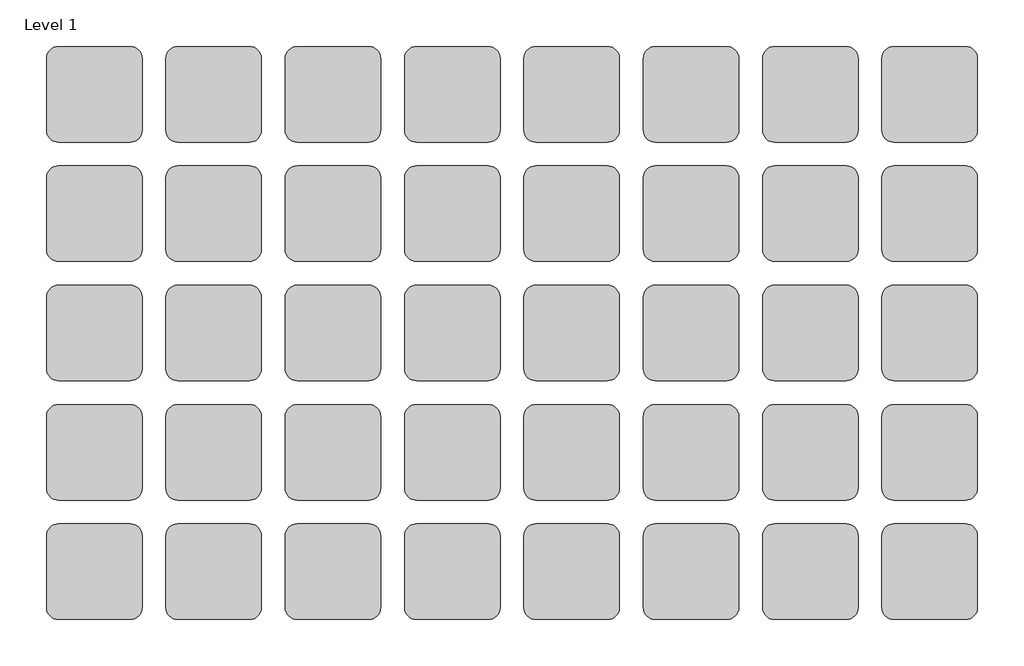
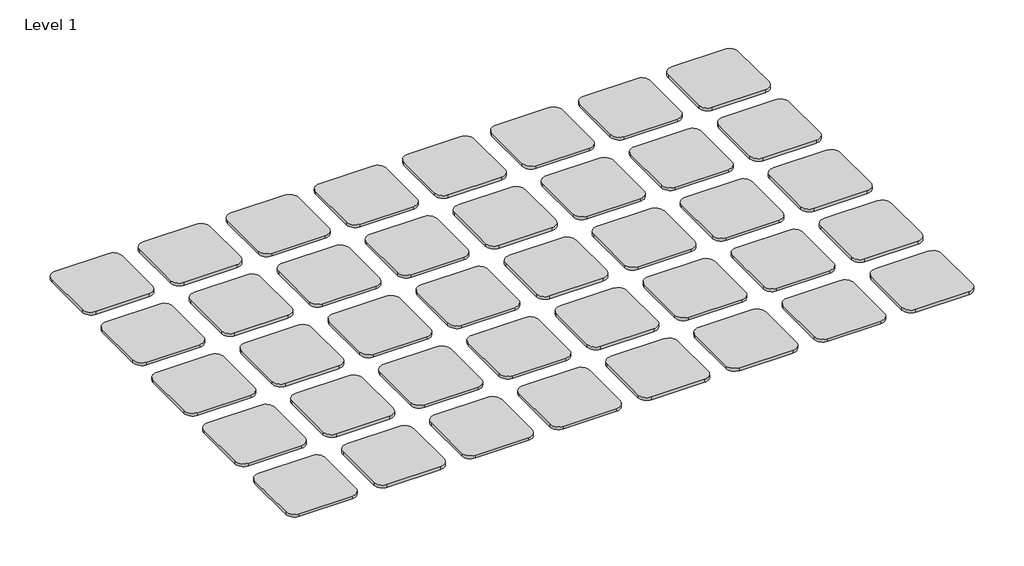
# One storey: 40 proxies.
"""IFC4 building model written with IfcOpenShell, lengths in millimetres."""

from ifc_helpers import new_model, si_unit, origin, place, context, project, spatial, transform, mapped, element, save
from components import materialsample_type_1_9638d12c

model = new_model("IFC4")

# Units and contexts
model_context = context("Model", 3, world=origin())
ifc_project = project(units=[si_unit("LENGTHUNIT", "METRE", prefix="MILLI")], contexts=[model_context])

# Site, building, storey
site = spatial("IfcSite", under=ifc_project)
building = spatial("IfcBuilding", under=site)
storey = spatial("IfcBuildingStorey", under=building, Name="Level 1", Elevation=0.0)

# Proxies
placement = place(None, origin())
materialsample_type_1_shape = materialsample_type_1_9638d12c(model_context)
element("IfcBuildingElementProxy", 1, Name="MaterialSample : Type 1", ObjectType="MaterialSample : Type 1", at=placement, inside=storey, context=model_context, shape_type="MappedRepresentation", body=[
    mapped(materialsample_type_1_shape, transform((3048.0, -3048.0, 0.0), x_axis=(1.0, 0.0, 0.0), y_axis=(0.0, 1.0, 0.0), z_axis=(0.0, 0.0, 1.0))),
])
element("IfcBuildingElementProxy", 2, Name="MaterialSample : Type 1", ObjectType="MaterialSample : Type 1", at=placement, inside=storey, context=model_context, shape_type="MappedRepresentation", body=[
    mapped(materialsample_type_1_shape, transform((0.0, 0.0, 0.0), x_axis=(1.0, 0.0, 0.0), y_axis=(0.0, 1.0, 0.0), z_axis=(0.0, 0.0, 1.0))),
])
element("IfcBuildingElementProxy", 3, Name="MaterialSample : Type 1", ObjectType="MaterialSample : Type 1", at=placement, inside=storey, context=model_context, shape_type="MappedRepresentation", body=[
    mapped(materialsample_type_1_shape, transform((0.0, -762.0, 0.0), x_axis=(1.0, 0.0, 0.0), y_axis=(0.0, 1.0, 0.0), z_axis=(0.0, 0.0, 1.0))),
])
element("IfcBuildingElementProxy", 4, Name="MaterialSample : Type 1", ObjectType="MaterialSample : Type 1", at=placement, inside=storey, context=model_context, shape_type="MappedRepresentation", body=[
    mapped(materialsample_type_1_shape, transform((0.0, -1524.0, 0.0), x_axis=(1.0, 0.0, 0.0), y_axis=(0.0, 1.0, 0.0), z_axis=(0.0, 0.0, 1.0))),
])
element("IfcBuildingElementProxy", 5, Name="MaterialSample : Type 1", ObjectType="MaterialSample : Type 1", at=placement, inside=storey, context=model_context, shape_type="MappedRepresentation", body=[
    mapped(materialsample_type_1_shape, transform((0.0, -2286.0, 0.0), x_axis=(1.0, 0.0, 0.0), y_axis=(0.0, 1.0, 0.0), z_axis=(0.0, 0.0, 1.0))),
])
element("IfcBuildingElementProxy", 6, Name="MaterialSample : Type 1", ObjectType="MaterialSample : Type 1", at=placement, inside=storey, context=model_context, shape_type="MappedRepresentation", body=[
    mapped(materialsample_type_1_shape, transform((762.0, 0.0, 0.0), x_axis=(1.0, 0.0, 0.0), y_axis=(0.0, 1.0, 0.0), z_axis=(0.0, 0.0, 1.0))),
])
element("IfcBuildingElementProxy", 7, Name="MaterialSample : Type 1", ObjectType="MaterialSample : Type 1", at=placement, inside=storey, context=model_context, shape_type="MappedRepresentation", body=[
    mapped(materialsample_type_1_shape, transform((762.0, -762.0, 0.0), x_axis=(1.0, 0.0, 0.0), y_axis=(0.0, 1.0, 0.0), z_axis=(0.0, 0.0, 1.0))),
])
element("IfcBuildingElementProxy", 8, Name="MaterialSample : Type 1", ObjectType="MaterialSample : Type 1", at=placement, inside=storey, context=model_context, shape_type="MappedRepresentation", body=[
    mapped(materialsample_type_1_shape, transform((762.0, -1524.0, 0.0), x_axis=(1.0, 0.0, 0.0), y_axis=(0.0, 1.0, 0.0), z_axis=(0.0, 0.0, 1.0))),
])
element("IfcBuildingElementProxy", 9, Name="MaterialSample : Type 1", ObjectType="MaterialSample : Type 1", at=placement, inside=storey, context=model_context, shape_type="MappedRepresentation", body=[
    mapped(materialsample_type_1_shape, transform((762.0, -2286.0, 0.0), x_axis=(1.0, 0.0, 0.0), y_axis=(0.0, 1.0, 0.0), z_axis=(0.0, 0.0, 1.0))),
])
element("IfcBuildingElementProxy", 10, Name="MaterialSample : Type 1", ObjectType="MaterialSample : Type 1", at=placement, inside=storey, context=model_context, shape_type="MappedRepresentation", body=[
    mapped(materialsample_type_1_shape, transform((1524.0, 0.0, 0.0), x_axis=(1.0, 0.0, 0.0), y_axis=(0.0, 1.0, 0.0), z_axis=(0.0, 0.0, 1.0))),
])
element("IfcBuildingElementProxy", 11, Name="MaterialSample : Type 1", ObjectType="MaterialSample : Type 1", at=placement, inside=storey, context=model_context, shape_type="MappedRepresentation", body=[
    mapped(materialsample_type_1_shape, transform((1524.0, -762.0, 0.0), x_axis=(1.0, 0.0, 0.0), y_axis=(0.0, 1.0, 0.0), z_axis=(0.0, 0.0, 1.0))),
])
element("IfcBuildingElementProxy", 12, Name="MaterialSample : Type 1", ObjectType="MaterialSample : Type 1", at=placement, inside=storey, context=model_context, shape_type="MappedRepresentation", body=[
    mapped(materialsample_type_1_shape, transform((1524.0, -1524.0, 0.0), x_axis=(1.0, 0.0, 0.0), y_axis=(0.0, 1.0, 0.0), z_axis=(0.0, 0.0, 1.0))),
])
element("IfcBuildingElementProxy", 13, Name="MaterialSample : Type 1", ObjectType="MaterialSample : Type 1", at=placement, inside=storey, context=model_context, shape_type="MappedRepresentation", body=[
    mapped(materialsample_type_1_shape, transform((1524.0, -2286.0, 0.0), x_axis=(1.0, 0.0, 0.0), y_axis=(0.0, 1.0, 0.0), z_axis=(0.0, 0.0, 1.0))),
])
element("IfcBuildingElementProxy", 14, Name="MaterialSample : Type 1", ObjectType="MaterialSample : Type 1", at=placement, inside=storey, context=model_context, shape_type="MappedRepresentation", body=[
    mapped(materialsample_type_1_shape, transform((2286.0, 0.0, 0.0), x_axis=(1.0, 0.0, 0.0), y_axis=(0.0, 1.0, 0.0), z_axis=(0.0, 0.0, 1.0))),
])
element("IfcBuildingElementProxy", 15, Name="MaterialSample : Type 1", ObjectType="MaterialSample : Type 1", at=placement, inside=storey, context=model_context, shape_type="MappedRepresentation", body=[
    mapped(materialsample_type_1_shape, transform((2286.0, -762.0, 0.0), x_axis=(1.0, 0.0, 0.0), y_axis=(0.0, 1.0, 0.0), z_axis=(0.0, 0.0, 1.0))),
])
element("IfcBuildingElementProxy", 16, Name="MaterialSample : Type 1", ObjectType="MaterialSample : Type 1", at=placement, inside=storey, context=model_context, shape_type="MappedRepresentation", body=[
    mapped(materialsample_type_1_shape, transform((2286.0, -1524.0, 0.0), x_axis=(1.0, 0.0, 0.0), y_axis=(0.0, 1.0, 0.0), z_axis=(0.0, 0.0, 1.0))),
])
element("IfcBuildingElementProxy", 17, Name="MaterialSample : Type 1", ObjectType="MaterialSample : Type 1", at=placement, inside=storey, context=model_context, shape_type="MappedRepresentation", body=[
    mapped(materialsample_type_1_shape, transform((2286.0, -2286.0, 0.0), x_axis=(1.0, 0.0, 0.0), y_axis=(0.0, 1.0, 0.0), z_axis=(0.0, 0.0, 1.0))),
])
element("IfcBuildingElementProxy", 18, Name="MaterialSample : Type 1", ObjectType="MaterialSample : Type 1", at=placement, inside=storey, context=model_context, shape_type="MappedRepresentation", body=[
    mapped(materialsample_type_1_shape, transform((3048.0, 0.0, 0.0), x_axis=(1.0, 0.0, 0.0), y_axis=(0.0, 1.0, 0.0), z_axis=(0.0, 0.0, 1.0))),
])
element("IfcBuildingElementProxy", 19, Name="MaterialSample : Type 1", ObjectType="MaterialSample : Type 1", at=placement, inside=storey, context=model_context, shape_type="MappedRepresentation", body=[
    mapped(materialsample_type_1_shape, transform((3048.0, -762.0, 0.0), x_axis=(1.0, 0.0, 0.0), y_axis=(0.0, 1.0, 0.0), z_axis=(0.0, 0.0, 1.0))),
])
element("IfcBuildingElementProxy", 20, Name="MaterialSample : Type 1", ObjectType="MaterialSample : Type 1", at=placement, inside=storey, context=model_context, shape_type="MappedRepresentation", body=[
    mapped(materialsample_type_1_shape, transform((3048.0, -1524.0, 0.0), x_axis=(1.0, 0.0, 0.0), y_axis=(0.0, 1.0, 0.0), z_axis=(0.0, 0.0, 1.0))),
])
element("IfcBuildingElementProxy", 21, Name="MaterialSample : Type 1", ObjectType="MaterialSample : Type 1", at=placement, inside=storey, context=model_context, shape_type="MappedRepresentation", body=[
    mapped(materialsample_type_1_shape, transform((3048.0, -2286.0, 0.0), x_axis=(1.0, 0.0, 0.0), y_axis=(0.0, 1.0, 0.0), z_axis=(0.0, 0.0, 1.0))),
])
element("IfcBuildingElementProxy", 22, Name="MaterialSample : Type 1", ObjectType="MaterialSample : Type 1", at=placement, inside=storey, context=model_context, shape_type="MappedRepresentation", body=[
    mapped(materialsample_type_1_shape, transform((3810.0, 0.0, 0.0), x_axis=(1.0, 0.0, 0.0), y_axis=(0.0, 1.0, 0.0), z_axis=(0.0, 0.0, 1.0))),
])
element("IfcBuildingElementProxy", 23, Name="MaterialSample : Type 1", ObjectType="MaterialSample : Type 1", at=placement, inside=storey, context=model_context, shape_type="MappedRepresentation", body=[
    mapped(materialsample_type_1_shape, transform((3810.0, -762.0, 0.0), x_axis=(1.0, 0.0, 0.0), y_axis=(0.0, 1.0, 0.0), z_axis=(0.0, 0.0, 1.0))),
])
element("IfcBuildingElementProxy", 24, Name="MaterialSample : Type 1", ObjectType="MaterialSample : Type 1", at=placement, inside=storey, context=model_context, shape_type="MappedRepresentation", body=[
    mapped(materialsample_type_1_shape, transform((3810.0, -1524.0, 0.0), x_axis=(1.0, 0.0, 0.0), y_axis=(0.0, 1.0, 0.0), z_axis=(0.0, 0.0, 1.0))),
])
element("IfcBuildingElementProxy", 25, Name="MaterialSample : Type 1", ObjectType="MaterialSample : Type 1", at=placement, inside=storey, context=model_context, shape_type="MappedRepresentation", body=[
    mapped(materialsample_type_1_shape, transform((3810.0, -2286.0, 0.0), x_axis=(1.0, 0.0, 0.0), y_axis=(0.0, 1.0, 0.0), z_axis=(0.0, 0.0, 1.0))),
])
element("IfcBuildingElementProxy", 26, Name="MaterialSample : Type 1", ObjectType="MaterialSample : Type 1", at=placement, inside=storey, context=model_context, shape_type="MappedRepresentation", body=[
    mapped(materialsample_type_1_shape, transform((4572.0, 0.0, 0.0), x_axis=(1.0, 0.0, 0.0), y_axis=(0.0, 1.0, 0.0), z_axis=(0.0, 0.0, 1.0))),
])
element("IfcBuildingElementProxy", 27, Name="MaterialSample : Type 1", ObjectType="MaterialSample : Type 1", at=placement, inside=storey, context=model_context, shape_type="MappedRepresentation", body=[
    mapped(materialsample_type_1_shape, transform((4572.0, -762.0, 0.0), x_axis=(1.0, 0.0, 0.0), y_axis=(0.0, 1.0, 0.0), z_axis=(0.0, 0.0, 1.0))),
])
element("IfcBuildingElementProxy", 28, Name="MaterialSample : Type 1", ObjectType="MaterialSample : Type 1", at=placement, inside=storey, context=model_context, shape_type="MappedRepresentation", body=[
    mapped(materialsample_type_1_shape, transform((4572.0, -1524.0, 0.0), x_axis=(1.0, 0.0, 0.0), y_axis=(0.0, 1.0, 0.0), z_axis=(0.0, 0.0, 1.0))),
])
element("IfcBuildingElementProxy", 29, Name="MaterialSample : Type 1", ObjectType="MaterialSample : Type 1", at=placement, inside=storey, context=model_context, shape_type="MappedRepresentation", body=[
    mapped(materialsample_type_1_shape, transform((4572.0, -2286.0, 0.0), x_axis=(1.0, 0.0, 0.0), y_axis=(0.0, 1.0, 0.0), z_axis=(0.0, 0.0, 1.0))),
])
element("IfcBuildingElementProxy", 30, Name="MaterialSample : Type 1", ObjectType="MaterialSample : Type 1", at=placement, inside=storey, context=model_context, shape_type="MappedRepresentation", body=[
    mapped(materialsample_type_1_shape, transform((5334.0, 0.0, 0.0), x_axis=(1.0, 0.0, 0.0), y_axis=(0.0, 1.0, 0.0), z_axis=(0.0, 0.0, 1.0))),
])
element("IfcBuildingElementProxy", 31, Name="MaterialSample : Type 1", ObjectType="MaterialSample : Type 1", at=placement, inside=storey, context=model_context, shape_type="MappedRepresentation", body=[
    mapped(materialsample_type_1_shape, transform((5334.0, -762.0, 0.0), x_axis=(1.0, 0.0, 0.0), y_axis=(0.0, 1.0, 0.0), z_axis=(0.0, 0.0, 1.0))),
])
element("IfcBuildingElementProxy", 32, Name="MaterialSample : Type 1", ObjectType="MaterialSample : Type 1", at=placement, inside=storey, context=model_context, shape_type="MappedRepresentation", body=[
    mapped(materialsample_type_1_shape, transform((5334.0, -1524.0, 0.0), x_axis=(1.0, 0.0, 0.0), y_axis=(0.0, 1.0, 0.0), z_axis=(0.0, 0.0, 1.0))),
])
element("IfcBuildingElementProxy", 33, Name="MaterialSample : Type 1", ObjectType="MaterialSample : Type 1", at=placement, inside=storey, context=model_context, shape_type="MappedRepresentation", body=[
    mapped(materialsample_type_1_shape, transform((5334.0, -2286.0, 0.0), x_axis=(1.0, 0.0, 0.0), y_axis=(0.0, 1.0, 0.0), z_axis=(0.0, 0.0, 1.0))),
])
element("IfcBuildingElementProxy", 34, Name="MaterialSample : Type 1", ObjectType="MaterialSample : Type 1", at=placement, inside=storey, context=model_context, shape_type="MappedRepresentation", body=[
    mapped(materialsample_type_1_shape, transform((0.0, -3048.0, 0.0), x_axis=(1.0, 0.0, 0.0), y_axis=(0.0, 1.0, 0.0), z_axis=(0.0, 0.0, 1.0))),
])
element("IfcBuildingElementProxy", 35, Name="MaterialSample : Type 1", ObjectType="MaterialSample : Type 1", at=placement, inside=storey, context=model_context, shape_type="MappedRepresentation", body=[
    mapped(materialsample_type_1_shape, transform((762.0, -3048.0, 0.0), x_axis=(1.0, 0.0, 0.0), y_axis=(0.0, 1.0, 0.0), z_axis=(0.0, 0.0, 1.0))),
])
element("IfcBuildingElementProxy", 36, Name="MaterialSample : Type 1", ObjectType="MaterialSample : Type 1", at=placement, inside=storey, context=model_context, shape_type="MappedRepresentation", body=[
    mapped(materialsample_type_1_shape, transform((1524.0, -3048.0, 0.0), x_axis=(1.0, 0.0, 0.0), y_axis=(0.0, 1.0, 0.0), z_axis=(0.0, 0.0, 1.0))),
])
element("IfcBuildingElementProxy", 37, Name="MaterialSample : Type 1", ObjectType="MaterialSample : Type 1", at=placement, inside=storey, context=model_context, shape_type="MappedRepresentation", body=[
    mapped(materialsample_type_1_shape, transform((2286.0, -3048.0, 0.0), x_axis=(1.0, 0.0, 0.0), y_axis=(0.0, 1.0, 0.0), z_axis=(0.0, 0.0, 1.0))),
])
element("IfcBuildingElementProxy", 38, Name="MaterialSample : Type 1", ObjectType="MaterialSample : Type 1", at=placement, inside=storey, context=model_context, shape_type="MappedRepresentation", body=[
    mapped(materialsample_type_1_shape, transform((3810.0, -3048.0, 0.0), x_axis=(1.0, 0.0, 0.0), y_axis=(0.0, 1.0, 0.0), z_axis=(0.0, 0.0, 1.0))),
])
element("IfcBuildingElementProxy", 39, Name="MaterialSample : Type 1", ObjectType="MaterialSample : Type 1", at=placement, inside=storey, context=model_context, shape_type="MappedRepresentation", body=[
    mapped(materialsample_type_1_shape, transform((4572.0, -3048.0, 0.0), x_axis=(1.0, 0.0, 0.0), y_axis=(0.0, 1.0, 0.0), z_axis=(0.0, 0.0, 1.0))),
])
element("IfcBuildingElementProxy", 40, Name="MaterialSample : Type 1", ObjectType="MaterialSample : Type 1", at=placement, inside=storey, context=model_context, shape_type="MappedRepresentation", body=[
    mapped(materialsample_type_1_shape, transform((5334.0, -3048.0, 0.0), x_axis=(1.0, 0.0, 0.0), y_axis=(0.0, 1.0, 0.0), z_axis=(0.0, 0.0, 1.0))),
])

save(model, "model.ifc")
